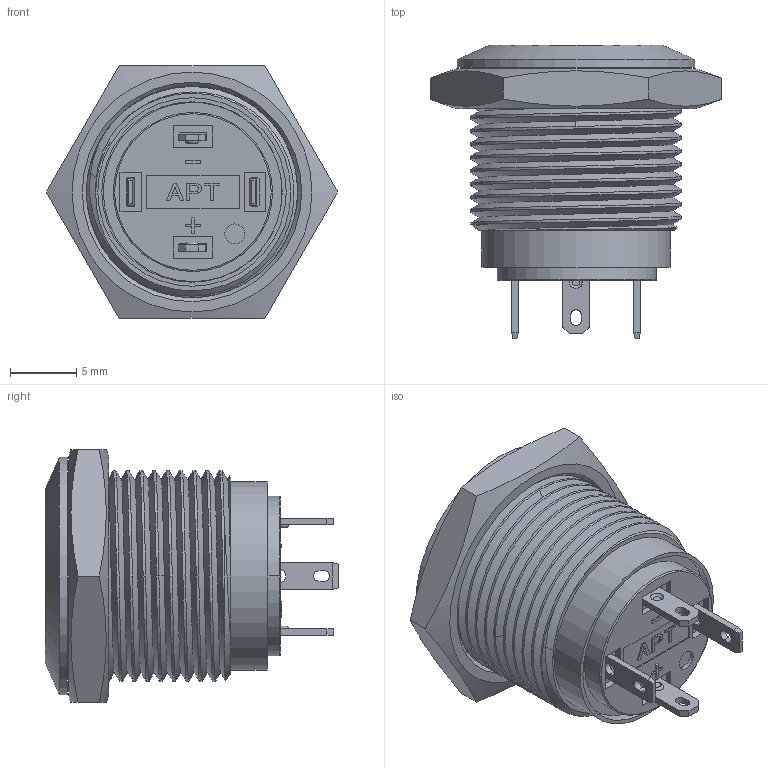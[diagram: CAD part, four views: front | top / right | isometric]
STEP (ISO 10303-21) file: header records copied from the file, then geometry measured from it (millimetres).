
FILE_DESCRIPTION(/* description */ (''),/* implementation_level */ '2;1');
FILE_NAME(/* name */ 'FM16E-SFP-10D2.stp',/* time_stamp */ '2020-07-28T13:10:11+08:00',/* author */ (''),/* organization */ (''),/* preprocessor_version */ 'ST-DEVELOPER v16.7',/* originating_system */ 'SIEMENS PLM Software NX 12.0',/* authorisation */ '');
FILE_SCHEMA (('AUTOMOTIVE_DESIGN { 1 0 10303 214 3 1 1 1 }'));
Length unit declared in the file: millimetre
Products named in the file (1): Admi43A8CC905oy0
Bounding box: 21.94 x 22.12 x 19 mm (x, y, z)
Volume: 2344.7 mm3; surface area: 4744.8 mm2
Topology: 1 solids, 1 shells, 431 faces, 1181 edges, 770 vertices
Faces by surface type: plane 317, cylinder 70, cone 18, torus 11, bspline 11, extrusion 4
Full cylindrical faces by diameter (mm): 1 x2, 1.1 x2, 1.5 x1, 3 x1, 4 x1, 4.1 x1, 5 x1, 5.5 x1, 5.6 x1, 9 x1, 9.3 x1, 10.9 x1, 11.5 x1, 11.8 x1, 12.7 x1, 13.6 x1, 14.2 x1, 14.5 x1, 17.9 x1
Entity records: 16950 total; most frequent: CARTESIAN_POINT 5226, ORIENTED_EDGE 2232, DIRECTION 2062, EDGE_CURVE 1116, VECTOR 794, LINE 790, VERTEX_POINT 748, AXIS2_PLACEMENT_3D 634
